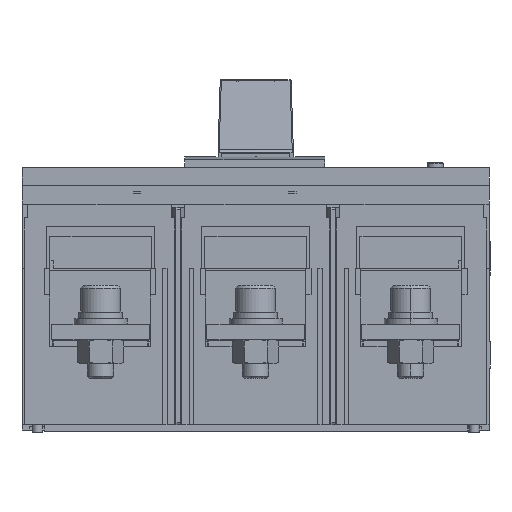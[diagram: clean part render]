
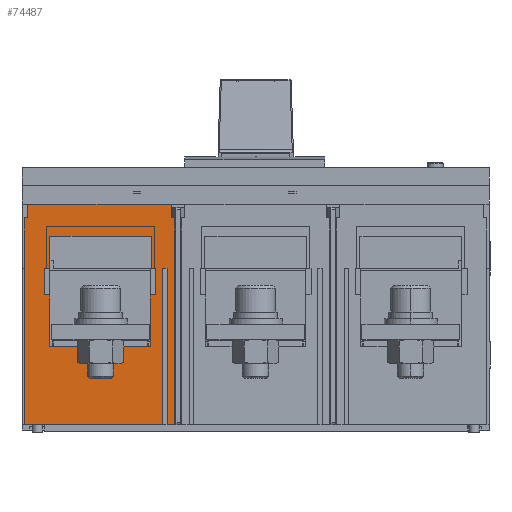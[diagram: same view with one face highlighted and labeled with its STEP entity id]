
A CAD part, front view. The second image highlights one B-rep face of the part: STEP entity #74487.
In plain terms, the highlighted planar face has unit normal (0, -1, 0).
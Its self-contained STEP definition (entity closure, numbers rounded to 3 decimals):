
#17006=DIRECTION('',(0.,0.,-1.));
#17007=VECTOR('',#17006,12.);
#17008=CARTESIAN_POINT('',(61.544,97.381,-29.));
#17009=LINE('',#17008,#17007);
#17100=DIRECTION('',(0.,0.,1.));
#17101=VECTOR('',#17100,12.);
#17102=CARTESIAN_POINT('',(11.044,97.381,-41.));
#17103=LINE('',#17102,#17101);
#17790=DIRECTION('',(0.,0.,-1.));
#17791=VECTOR('',#17790,23.4);
#17792=CARTESIAN_POINT('',(59.044,97.381,-41.));
#17793=LINE('',#17792,#17791);
#17802=DIRECTION('',(0.,0.,-1.));
#17803=VECTOR('',#17802,22.8);
#17804=CARTESIAN_POINT('',(69.944,97.381,-6.2));
#17805=LINE('',#17804,#17803);
#17806=DIRECTION('',(1.,0.,0.));
#17807=VECTOR('',#17806,0.1);
#17808=CARTESIAN_POINT('',(69.944,97.381,-29.));
#17809=LINE('',#17808,#17807);
#17810=DIRECTION('',(0.,0.,-1.));
#17811=VECTOR('',#17810,70.5);
#17812=CARTESIAN_POINT('',(70.044,97.381,-29.));
#17813=LINE('',#17812,#17811);
#17814=DIRECTION('',(-1.,0.,0.));
#17815=VECTOR('',#17814,3.5);
#17816=CARTESIAN_POINT('',(70.044,97.381,-99.5));
#17817=LINE('',#17816,#17815);
#17818=DIRECTION('',(-1.,0.,0.));
#17819=VECTOR('',#17818,2.);
#17820=CARTESIAN_POINT('',(66.544,97.381,-29.));
#17821=LINE('',#17820,#17819);
#17822=DIRECTION('',(-1.,0.,0.));
#17823=VECTOR('',#17822,62.2);
#17824=CARTESIAN_POINT('',(64.544,97.381,-99.5));
#17825=LINE('',#17824,#17823);
#17826=DIRECTION('',(0.,0.,1.));
#17827=VECTOR('',#17826,70.5);
#17828=CARTESIAN_POINT('',(2.344,97.381,-99.5));
#17829=LINE('',#17828,#17827);
#17830=DIRECTION('',(-1.,0.,0.));
#17831=VECTOR('',#17830,0.2);
#17832=CARTESIAN_POINT('',(2.344,97.381,-29.));
#17833=LINE('',#17832,#17831);
#17834=DIRECTION('',(1.,0.,0.));
#17835=VECTOR('',#17834,65.);
#17836=CARTESIAN_POINT('',(3.544,97.381,0.));
#17837=LINE('',#17836,#17835);
#17838=DIRECTION('',(0.,0.,-1.));
#17839=VECTOR('',#17838,6.2);
#17840=CARTESIAN_POINT('',(68.544,97.381,0.));
#17841=LINE('',#17840,#17839);
#17842=DIRECTION('',(1.,0.,0.));
#17843=VECTOR('',#17842,1.4);
#17844=CARTESIAN_POINT('',(68.544,97.381,-6.2));
#17845=LINE('',#17844,#17843);
#17846=DIRECTION('',(-1.,0.,0.));
#17847=VECTOR('',#17846,2.6);
#17848=CARTESIAN_POINT('',(13.644,97.381,-29.));
#17849=LINE('',#17848,#17847);
#17850=DIRECTION('',(-1.,0.,0.));
#17851=VECTOR('',#17850,2.1);
#17852=CARTESIAN_POINT('',(61.544,97.381,-29.));
#17853=LINE('',#17852,#17851);
#17922=DIRECTION('',(0.,0.,-1.));
#17923=VECTOR('',#17922,70.5);
#17924=CARTESIAN_POINT('',(66.544,97.381,-29.));
#17925=LINE('',#17924,#17923);
#17946=DIRECTION('',(0.,0.,1.));
#17947=VECTOR('',#17946,70.5);
#17948=CARTESIAN_POINT('',(64.544,97.381,-99.5));
#17949=LINE('',#17948,#17947);
#18206=DIRECTION('',(0.,0.,-1.));
#18207=VECTOR('',#18206,6.2);
#18208=CARTESIAN_POINT('',(3.544,97.381,0.));
#18209=LINE('',#18208,#18207);
#18222=DIRECTION('',(-1.,0.,0.));
#18223=VECTOR('',#18222,1.4);
#18224=CARTESIAN_POINT('',(3.544,97.381,-6.2));
#18225=LINE('',#18224,#18223);
#18230=DIRECTION('',(0.,0.,-1.));
#18231=VECTOR('',#18230,22.8);
#18232=CARTESIAN_POINT('',(2.144,97.381,-6.2));
#18233=LINE('',#18232,#18231);
#18238=DIRECTION('',(-1.,0.,0.));
#18239=VECTOR('',#18238,2.5);
#18240=CARTESIAN_POINT('',(13.544,97.381,-41.));
#18241=LINE('',#18240,#18239);
#18262=DIRECTION('',(0.,0.,1.));
#18263=VECTOR('',#18262,23.4);
#18264=CARTESIAN_POINT('',(13.544,97.381,-64.4));
#18265=LINE('',#18264,#18263);
#18274=DIRECTION('',(-1.,0.,0.));
#18275=VECTOR('',#18274,45.5);
#18276=CARTESIAN_POINT('',(59.044,97.381,-64.4));
#18277=LINE('',#18276,#18275);
#18282=DIRECTION('',(-1.,0.,0.));
#18283=VECTOR('',#18282,2.5);
#18284=CARTESIAN_POINT('',(61.544,97.381,-41.));
#18285=LINE('',#18284,#18283);
#18298=DIRECTION('',(0.,0.,-1.));
#18299=VECTOR('',#18298,14.5);
#18300=CARTESIAN_POINT('',(59.444,97.381,-14.5));
#18301=LINE('',#18300,#18299);
#18314=DIRECTION('',(0.,0.,1.));
#18315=VECTOR('',#18314,14.5);
#18316=CARTESIAN_POINT('',(13.644,97.381,-29.));
#18317=LINE('',#18316,#18315);
#18334=DIRECTION('',(1.,0.,0.));
#18335=VECTOR('',#18334,45.8);
#18336=CARTESIAN_POINT('',(13.644,97.381,-14.5));
#18337=LINE('',#18336,#18335);
#39783=CARTESIAN_POINT('',(68.544,97.381,0.));
#39784=VERTEX_POINT('',#39783);
#39785=CARTESIAN_POINT('',(3.544,97.381,0.));
#39786=VERTEX_POINT('',#39785);
#40394=CARTESIAN_POINT('',(2.344,97.381,-99.5));
#40395=VERTEX_POINT('',#40394);
#40396=CARTESIAN_POINT('',(64.544,97.381,-99.5));
#40397=VERTEX_POINT('',#40396);
#43990=CARTESIAN_POINT('',(3.544,97.381,-6.2));
#43991=VERTEX_POINT('',#43990);
#44002=CARTESIAN_POINT('',(2.144,97.381,-6.2));
#44003=VERTEX_POINT('',#44002);
#44004=CARTESIAN_POINT('',(69.944,97.381,-6.2));
#44005=CARTESIAN_POINT('',(69.944,97.381,-29.));
#44006=VERTEX_POINT('',#44004);
#44007=VERTEX_POINT('',#44005);
#44008=CARTESIAN_POINT('',(70.044,97.381,-29.));
#44009=VERTEX_POINT('',#44008);
#44010=CARTESIAN_POINT('',(70.044,97.381,-99.5));
#44011=VERTEX_POINT('',#44010);
#44012=CARTESIAN_POINT('',(66.544,97.381,-99.5));
#44013=VERTEX_POINT('',#44012);
#44014=CARTESIAN_POINT('',(66.544,97.381,-29.));
#44015=VERTEX_POINT('',#44014);
#44016=CARTESIAN_POINT('',(64.544,97.381,-29.));
#44017=VERTEX_POINT('',#44016);
#44018=CARTESIAN_POINT('',(2.344,97.381,-29.));
#44019=VERTEX_POINT('',#44018);
#44020=CARTESIAN_POINT('',(2.144,97.381,-29.));
#44021=VERTEX_POINT('',#44020);
#44022=CARTESIAN_POINT('',(68.544,97.381,-6.2));
#44023=VERTEX_POINT('',#44022);
#44024=CARTESIAN_POINT('',(13.644,97.381,-29.));
#44025=CARTESIAN_POINT('',(11.044,97.381,-29.));
#44026=VERTEX_POINT('',#44024);
#44027=VERTEX_POINT('',#44025);
#44028=CARTESIAN_POINT('',(11.044,97.381,-41.));
#44029=VERTEX_POINT('',#44028);
#44030=CARTESIAN_POINT('',(13.544,97.381,-41.));
#44031=VERTEX_POINT('',#44030);
#44032=CARTESIAN_POINT('',(13.544,97.381,-64.4));
#44033=VERTEX_POINT('',#44032);
#44034=CARTESIAN_POINT('',(59.044,97.381,-64.4));
#44035=VERTEX_POINT('',#44034);
#44036=CARTESIAN_POINT('',(59.044,97.381,-41.));
#44037=VERTEX_POINT('',#44036);
#44038=CARTESIAN_POINT('',(61.544,97.381,-41.));
#44039=VERTEX_POINT('',#44038);
#44040=CARTESIAN_POINT('',(61.544,97.381,-29.));
#44041=VERTEX_POINT('',#44040);
#44042=CARTESIAN_POINT('',(59.444,97.381,-29.));
#44043=VERTEX_POINT('',#44042);
#44044=CARTESIAN_POINT('',(59.444,97.381,-14.5));
#44045=VERTEX_POINT('',#44044);
#44046=CARTESIAN_POINT('',(13.644,97.381,-14.5));
#44047=VERTEX_POINT('',#44046);
#74429=CARTESIAN_POINT('',(1.044,97.381,-29.));
#74430=DIRECTION('',(0.,-1.,0.));
#74431=DIRECTION('',(1.,0.,0.));
#74432=AXIS2_PLACEMENT_3D('',#74429,#74430,#74431);
#74433=PLANE('',#74432);
#74435=ORIENTED_EDGE('',*,*,#74434,.T.);
#74437=ORIENTED_EDGE('',*,*,#74436,.T.);
#74439=ORIENTED_EDGE('',*,*,#74438,.T.);
#74441=ORIENTED_EDGE('',*,*,#74440,.T.);
#74443=ORIENTED_EDGE('',*,*,#74442,.F.);
#74445=ORIENTED_EDGE('',*,*,#74444,.T.);
#74447=ORIENTED_EDGE('',*,*,#74446,.F.);
#74448=ORIENTED_EDGE('',*,*,#58773,.T.);
#74450=ORIENTED_EDGE('',*,*,#74449,.T.);
#74452=ORIENTED_EDGE('',*,*,#74451,.T.);
#74454=ORIENTED_EDGE('',*,*,#74453,.F.);
#74456=ORIENTED_EDGE('',*,*,#74455,.F.);
#74458=ORIENTED_EDGE('',*,*,#74457,.F.);
#74459=ORIENTED_EDGE('',*,*,#58106,.T.);
#74461=ORIENTED_EDGE('',*,*,#74460,.T.);
#74463=ORIENTED_EDGE('',*,*,#74462,.T.);
#74464=EDGE_LOOP('',(#74435,#74437,#74439,#74441,#74443,#74445,#74447,#74448,
#74450,#74452,#74454,#74456,#74458,#74459,#74461,#74463));
#74465=FACE_OUTER_BOUND('',#74464,.F.);
#74466=ORIENTED_EDGE('',*,*,#73526,.T.);
#74467=ORIENTED_EDGE('',*,*,#73548,.F.);
#74469=ORIENTED_EDGE('',*,*,#74468,.F.);
#74471=ORIENTED_EDGE('',*,*,#74470,.F.);
#74473=ORIENTED_EDGE('',*,*,#74472,.F.);
#74474=ORIENTED_EDGE('',*,*,#74419,.F.);
#74476=ORIENTED_EDGE('',*,*,#74475,.F.);
#74477=ORIENTED_EDGE('',*,*,#73410,.F.);
#74478=ORIENTED_EDGE('',*,*,#73436,.T.);
#74480=ORIENTED_EDGE('',*,*,#74479,.F.);
#74482=ORIENTED_EDGE('',*,*,#74481,.F.);
#74484=ORIENTED_EDGE('',*,*,#74483,.F.);
#74485=EDGE_LOOP('',(#74466,#74467,#74469,#74471,#74473,#74474,#74476,#74477,
#74478,#74480,#74482,#74484));
#74486=FACE_BOUND('',#74485,.F.);
#74487=ADVANCED_FACE('',(#74465,#74486),#74433,.T.);
#58106=EDGE_CURVE('',#39786,#39784,#17837,.T.);
#58773=EDGE_CURVE('',#40397,#40395,#17825,.T.);
#73410=EDGE_CURVE('',#44041,#44039,#17009,.T.);
#73436=EDGE_CURVE('',#44041,#44043,#17853,.T.);
#73526=EDGE_CURVE('',#44026,#44027,#17849,.T.);
#73548=EDGE_CURVE('',#44029,#44027,#17103,.T.);
#74419=EDGE_CURVE('',#44037,#44035,#17793,.T.);
#74434=EDGE_CURVE('',#44006,#44007,#17805,.T.);
#74436=EDGE_CURVE('',#44007,#44009,#17809,.T.);
#74438=EDGE_CURVE('',#44009,#44011,#17813,.T.);
#74440=EDGE_CURVE('',#44011,#44013,#17817,.T.);
#74442=EDGE_CURVE('',#44015,#44013,#17925,.T.);
#74444=EDGE_CURVE('',#44015,#44017,#17821,.T.);
#74446=EDGE_CURVE('',#40397,#44017,#17949,.T.);
#74449=EDGE_CURVE('',#40395,#44019,#17829,.T.);
#74451=EDGE_CURVE('',#44019,#44021,#17833,.T.);
#74453=EDGE_CURVE('',#44003,#44021,#18233,.T.);
#74455=EDGE_CURVE('',#43991,#44003,#18225,.T.);
#74457=EDGE_CURVE('',#39786,#43991,#18209,.T.);
#74460=EDGE_CURVE('',#39784,#44023,#17841,.T.);
#74462=EDGE_CURVE('',#44023,#44006,#17845,.T.);
#74468=EDGE_CURVE('',#44031,#44029,#18241,.T.);
#74470=EDGE_CURVE('',#44033,#44031,#18265,.T.);
#74472=EDGE_CURVE('',#44035,#44033,#18277,.T.);
#74475=EDGE_CURVE('',#44039,#44037,#18285,.T.);
#74479=EDGE_CURVE('',#44045,#44043,#18301,.T.);
#74481=EDGE_CURVE('',#44047,#44045,#18337,.T.);
#74483=EDGE_CURVE('',#44026,#44047,#18317,.T.);
